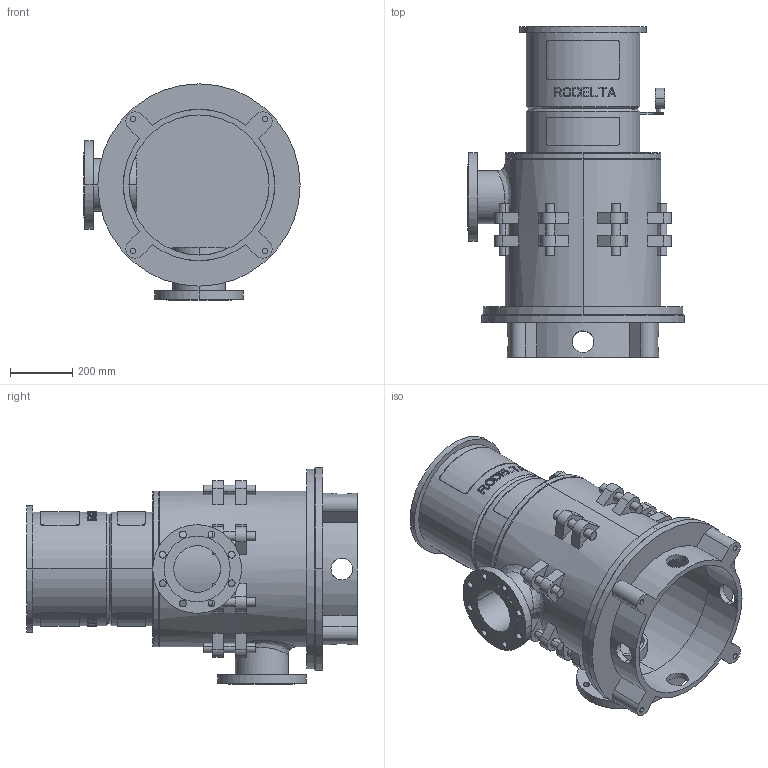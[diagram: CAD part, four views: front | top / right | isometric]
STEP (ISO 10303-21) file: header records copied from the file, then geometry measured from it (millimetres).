
FILE_DESCRIPTION((''),'2;1');
FILE_NAME('LS6_1TR_0GR_TOT_30KW','2023-08-11T',('Lyritlocal'),(''),'PRO/ENGINEER BY PARAMETRIC TECHNOLOGY CORPORATION, 2016360','PRO/ENGINEER BY PARAMETRIC TECHNOLOGY CORPORATION, 2016360','');
FILE_SCHEMA(('CONFIG_CONTROL_DESIGN'));
Length unit declared in the file: millimetre
Products named in the file (1): LS6_1TR_0GR_TOT_30KW
Bounding box: 695 x 1063 x 695 mm (x, y, z)
Volume: 36733875.9 mm3; surface area: 4647416.1 mm2
Topology: 3 solids, 7 shells, 684 faces, 1769 edges, 1174 vertices
Faces by surface type: plane 422, cylinder 242, cone 12, bspline 8
Entity records: 22611 total; most frequent: CARTESIAN_POINT 5991, ORIENTED_EDGE 3522, DIRECTION 3275, EDGE_CURVE 1769, AXIS2_PLACEMENT_3D 1237, VERTEX_POINT 1174, EDGE_LOOP 827, VECTOR 801
